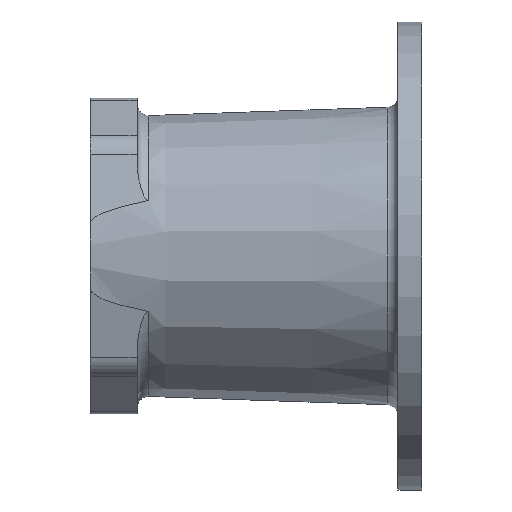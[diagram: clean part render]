
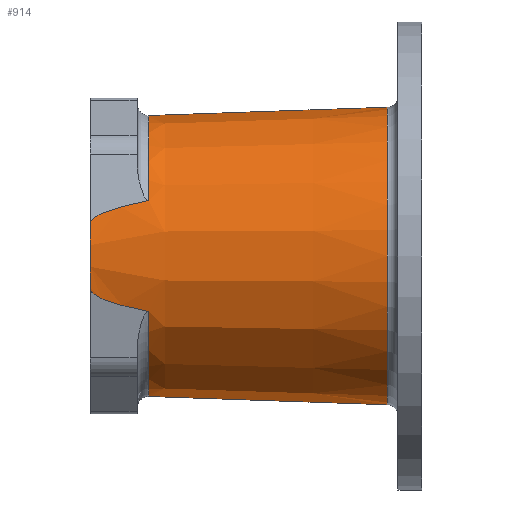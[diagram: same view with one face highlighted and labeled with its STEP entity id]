
A CAD part, left-side view. The second image highlights one B-rep face of the part: STEP entity #914.
In plain terms, the highlighted conical face has half-angle 2 degrees and reference radius 56.333 mm.
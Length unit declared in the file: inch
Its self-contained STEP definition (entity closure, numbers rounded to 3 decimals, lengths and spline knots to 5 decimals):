
#108 = CARTESIAN_POINT ( 'NONE',  ( -2.11273, 5.08646, 0.70013 ) ) ;
#124 = VERTEX_POINT ( 'NONE', #2945 ) ;
#126 = CARTESIAN_POINT ( 'NONE',  ( -2.15645, 5.31, 0.51819 ) ) ;
#170 = VERTEX_POINT ( 'NONE', #2020 ) ;
#199 = B_SPLINE_CURVE_WITH_KNOTS ( 'NONE', 3,
 ( #2438, #5883, #4118, #807, #4711, #1347, #5294, #1895, #5909, #2462, #6542, #3004, #7091, #3559, #246, #4139, #829, #4743, #1368, #5316, #1929, #5937, #2485, #6570 ),
 .UNSPECIFIED., .F., .F.,
 ( 4, 2, 2, 2, 2, 2, 2, 2, 2, 2, 2, 4 ),
 ( 0., 0.00083, 0.00167, 0.0025, 0.00333, 0.00417, 0.005, 0.00667, 0.01, 0.01334, 0.02001, 0.02668 ),
 .UNSPECIFIED. ) ;
#246 = CARTESIAN_POINT ( 'NONE',  ( -2.119, 5.14487, -0.67404 ) ) ;
#327 = CARTESIAN_POINT ( 'NONE',  ( 0., 5.31, -2.21784 ) ) ;
#504 = EDGE_CURVE ( 'NONE', #1996, #4017, #2349, .T. ) ;
#626 = CIRCLE ( 'NONE', #860, 2.25054 ) ;
#685 = CARTESIAN_POINT ( 'NONE',  ( -2.12137, 5.1653, 0.6642 ) ) ;
#759 = CARTESIAN_POINT ( 'NONE',  ( 0., 5.31, 0. ) ) ;
#805 = B_SPLINE_CURVE_WITH_KNOTS ( 'NONE', 3,
 ( #5481, #3965, #5757, #2329, #6394, #2874, #6970, #3422, #108, #3994, #685, #4597, #1242, #5176, #1789, #5782, #2355, #6417, #2894, #6997, #3440, #126 ),
 .UNSPECIFIED., .F., .F.,
 ( 4, 2, 2, 2, 2, 2, 2, 2, 2, 2, 4 ),
 ( -0.00484, 0.00179, 0.00842, 0.01174, 0.01505, 0.01671, 0.01837, 0.0192, 0.02003, 0.02086, 0.02169 ),
 .UNSPECIFIED. ) ;
#807 = CARTESIAN_POINT ( 'NONE',  ( -2.14656, 5.29909, -0.55937 ) ) ;
#829 = CARTESIAN_POINT ( 'NONE',  ( -2.10898, 5.04536, -0.71576 ) ) ;
#860 = AXIS2_PLACEMENT_3D ( 'NONE', #2324, #6391, #2869 ) ;
#914 = ADVANCED_FACE ( 'NONE', ( #1296 ), #7046, .T. ) ;
#925 = VERTEX_POINT ( 'NONE', #2877 ) ;
#1025 = EDGE_LOOP ( 'NONE', ( #2556, #3177, #2505, #4663, #1668, #4522, #4662, #5358 ) ) ;
#1122 = AXIS2_PLACEMENT_3D ( 'NONE', #2695, #6794, #3244 ) ;
#1125 = CARTESIAN_POINT ( 'NONE',  ( 0., 5.31, 2.21784 ) ) ;
#1192 = DIRECTION ( 'NONE',  ( 0., -0.999, 0.035 ) ) ;
#1242 = CARTESIAN_POINT ( 'NONE',  ( -2.12899, 5.2219, 0.6325 ) ) ;
#1296 = FACE_OUTER_BOUND ( 'NONE', #1025, .T. ) ;
#1307 = DIRECTION ( 'NONE',  ( 0., 0., -1. ) ) ;
#1335 = VERTEX_POINT ( 'NONE', #1601 ) ;
#1347 = CARTESIAN_POINT ( 'NONE',  ( -2.14033, 5.27973, -0.58531 ) ) ;
#1368 = CARTESIAN_POINT ( 'NONE',  ( -2.09901, 4.92198, -0.75723 ) ) ;
#1492 = CARTESIAN_POINT ( 'NONE',  ( 0., 0.55372, -2.38393 ) ) ;
#1601 = CARTESIAN_POINT ( 'NONE',  ( 0., 4.37372, 2.25054 ) ) ;
#1668 = ORIENTED_EDGE ( 'NONE', *, *, #7306, .T. ) ;
#1789 = CARTESIAN_POINT ( 'NONE',  ( -2.1351, 5.25643, 0.60707 ) ) ;
#1895 = CARTESIAN_POINT ( 'NONE',  ( -2.13501, 5.256, -0.60742 ) ) ;
#1929 = CARTESIAN_POINT ( 'NONE',  ( -2.08509, 4.71303, -0.8152 ) ) ;
#1996 = VERTEX_POINT ( 'NONE', #6195 ) ;
#1999 = CARTESIAN_POINT ( 'NONE',  ( 0., 0.55372, 0. ) ) ;
#2020 = CARTESIAN_POINT ( 'NONE',  ( 0., 0.55372, 2.38393 ) ) ;
#2324 = CARTESIAN_POINT ( 'NONE',  ( 0., 4.37372, 0. ) ) ;
#2329 = CARTESIAN_POINT ( 'NONE',  ( -2.0851, 4.71328, 0.81514 ) ) ;
#2349 = CIRCLE ( 'NONE', #3294, 2.21784 ) ;
#2355 = CARTESIAN_POINT ( 'NONE',  ( -2.14041, 5.28003, 0.58497 ) ) ;
#2438 = CARTESIAN_POINT ( 'NONE',  ( -2.15645, 5.31, -0.51819 ) ) ;
#2462 = CARTESIAN_POINT ( 'NONE',  ( -2.13037, 5.22986, -0.62674 ) ) ;
#2485 = CARTESIAN_POINT ( 'NONE',  ( -2.07124, 4.45893, -0.8728 ) ) ;
#2505 = ORIENTED_EDGE ( 'NONE', *, *, #6381, .T. ) ;
#2546 = DIRECTION ( 'NONE',  ( 0., 0., -1. ) ) ;
#2556 = ORIENTED_EDGE ( 'NONE', *, *, #5619, .F. ) ;
#2695 = CARTESIAN_POINT ( 'NONE',  ( 0., 4.37372, 0. ) ) ;
#2831 = AXIS2_PLACEMENT_3D ( 'NONE', #6315, #5730, #3969 ) ;
#2869 = DIRECTION ( 'NONE',  ( 0., 0., 1. ) ) ;
#2874 = CARTESIAN_POINT ( 'NONE',  ( -2.09905, 4.92252, 0.75707 ) ) ;
#2877 = CARTESIAN_POINT ( 'NONE',  ( 0., 4.37372, -2.25054 ) ) ;
#2894 = CARTESIAN_POINT ( 'NONE',  ( -2.14664, 5.29925, 0.55905 ) ) ;
#2938 = CIRCLE ( 'NONE', #1122, 2.25054 ) ;
#2945 = CARTESIAN_POINT ( 'NONE',  ( -2.06715, 4.37372, 0.88983 ) ) ;
#3004 = CARTESIAN_POINT ( 'NONE',  ( -2.12622, 5.2022, -0.64401 ) ) ;
#3160 = CARTESIAN_POINT ( 'NONE',  ( -2.06715, 4.37372, -0.88983 ) ) ;
#3177 = ORIENTED_EDGE ( 'NONE', *, *, #3481, .T. ) ;
#3244 = DIRECTION ( 'NONE',  ( 0., 0., 1. ) ) ;
#3291 = CARTESIAN_POINT ( 'NONE',  ( -2.15645, 5.31, -0.51819 ) ) ;
#3294 = AXIS2_PLACEMENT_3D ( 'NONE', #759, #4673, #1307 ) ;
#3419 = VERTEX_POINT ( 'NONE', #1492 ) ;
#3422 = CARTESIAN_POINT ( 'NONE',  ( -2.10903, 5.04592, 0.71555 ) ) ;
#3440 = CARTESIAN_POINT ( 'NONE',  ( -2.15388, 5.31, 0.52892 ) ) ;
#3481 = EDGE_CURVE ( 'NONE', #1335, #124, #2938, .T. ) ;
#3525 = LINE ( 'NONE', #327, #6714 ) ;
#3559 = CARTESIAN_POINT ( 'NONE',  ( -2.12125, 5.16429, -0.6647 ) ) ;
#3639 = DIRECTION ( 'NONE',  ( 0., -0.999, -0.035 ) ) ;
#3658 = EDGE_CURVE ( 'NONE', #7394, #925, #626, .T. ) ;
#3965 = CARTESIAN_POINT ( 'NONE',  ( -2.07125, 4.45898, 0.87279 ) ) ;
#3969 = DIRECTION ( 'NONE',  ( 0., 0., -1. ) ) ;
#3994 = CARTESIAN_POINT ( 'NONE',  ( -2.11911, 5.14581, 0.6736 ) ) ;
#4017 = VERTEX_POINT ( 'NONE', #3291 ) ;
#4118 = CARTESIAN_POINT ( 'NONE',  ( -2.15134, 5.30758, -0.53948 ) ) ;
#4139 = CARTESIAN_POINT ( 'NONE',  ( -2.11267, 5.08578, -0.70039 ) ) ;
#4354 = AXIS2_PLACEMENT_3D ( 'NONE', #1999, #6018, #2546 ) ;
#4522 = ORIENTED_EDGE ( 'NONE', *, *, #3658, .T. ) ;
#4597 = CARTESIAN_POINT ( 'NONE',  ( -2.12631, 5.20334, 0.64364 ) ) ;
#4662 = ORIENTED_EDGE ( 'NONE', *, *, #5869, .T. ) ;
#4663 = ORIENTED_EDGE ( 'NONE', *, *, #504, .T. ) ;
#4673 = DIRECTION ( 'NONE',  ( 0., -1., 0. ) ) ;
#4711 = CARTESIAN_POINT ( 'NONE',  ( -2.14439, 5.29328, -0.5684 ) ) ;
#4743 = CARTESIAN_POINT ( 'NONE',  ( -2.10214, 4.96343, -0.74422 ) ) ;
#5176 = CARTESIAN_POINT ( 'NONE',  ( -2.1335, 5.24801, 0.6137 ) ) ;
#5294 = CARTESIAN_POINT ( 'NONE',  ( -2.13847, 5.27209, -0.59305 ) ) ;
#5316 = CARTESIAN_POINT ( 'NONE',  ( -2.09021, 4.79714, -0.79386 ) ) ;
#5358 = ORIENTED_EDGE ( 'NONE', *, *, #6191, .T. ) ;
#5481 = CARTESIAN_POINT ( 'NONE',  ( -2.06715, 4.37372, 0.88983 ) ) ;
#5619 = EDGE_CURVE ( 'NONE', #1335, #170, #7205, .T. ) ;
#5639 = VECTOR ( 'NONE', #1192, 39.37008 ) ;
#5730 = DIRECTION ( 'NONE',  ( 0., -1., 0. ) ) ;
#5757 = CARTESIAN_POINT ( 'NONE',  ( -2.0756, 4.54403, 0.85468 ) ) ;
#5782 = CARTESIAN_POINT ( 'NONE',  ( -2.13854, 5.27242, 0.59273 ) ) ;
#5869 = EDGE_CURVE ( 'NONE', #925, #3419, #3525, .T. ) ;
#5883 = CARTESIAN_POINT ( 'NONE',  ( -2.15385, 5.31, -0.52902 ) ) ;
#5909 = CARTESIAN_POINT ( 'NONE',  ( -2.13341, 5.2475, -0.61409 ) ) ;
#5937 = CARTESIAN_POINT ( 'NONE',  ( -2.07559, 4.54393, -0.8547 ) ) ;
#6018 = DIRECTION ( 'NONE',  ( 0., 1., 0. ) ) ;
#6191 = EDGE_CURVE ( 'NONE', #3419, #170, #6421, .T. ) ;
#6195 = CARTESIAN_POINT ( 'NONE',  ( -2.15645, 5.31, 0.51819 ) ) ;
#6315 = CARTESIAN_POINT ( 'NONE',  ( 0., 5.31, 0. ) ) ;
#6381 = EDGE_CURVE ( 'NONE', #124, #1996, #805, .T. ) ;
#6391 = DIRECTION ( 'NONE',  ( 0., -1., 0. ) ) ;
#6394 = CARTESIAN_POINT ( 'NONE',  ( -2.09024, 4.79754, 0.79376 ) ) ;
#6417 = CARTESIAN_POINT ( 'NONE',  ( -2.14443, 5.29339, 0.56822 ) ) ;
#6421 = CIRCLE ( 'NONE', #4354, 2.38393 ) ;
#6542 = CARTESIAN_POINT ( 'NONE',  ( -2.12893, 5.22071, -0.63272 ) ) ;
#6570 = CARTESIAN_POINT ( 'NONE',  ( -2.06715, 4.37372, -0.88983 ) ) ;
#6714 = VECTOR ( 'NONE', #3639, 39.37008 ) ;
#6794 = DIRECTION ( 'NONE',  ( 0., -1., 0. ) ) ;
#6970 = CARTESIAN_POINT ( 'NONE',  ( -2.10218, 4.96393, 0.74406 ) ) ;
#6997 = CARTESIAN_POINT ( 'NONE',  ( -2.15133, 5.30755, 0.53951 ) ) ;
#7046 = CONICAL_SURFACE ( 'NONE', #2831, 2.21784, 0.035 ) ;
#7091 = CARTESIAN_POINT ( 'NONE',  ( -2.12494, 5.19281, -0.64935 ) ) ;
#7205 = LINE ( 'NONE', #1125, #5639 ) ;
#7306 = EDGE_CURVE ( 'NONE', #4017, #7394, #199, .T. ) ;
#7394 = VERTEX_POINT ( 'NONE', #3160 ) ;
